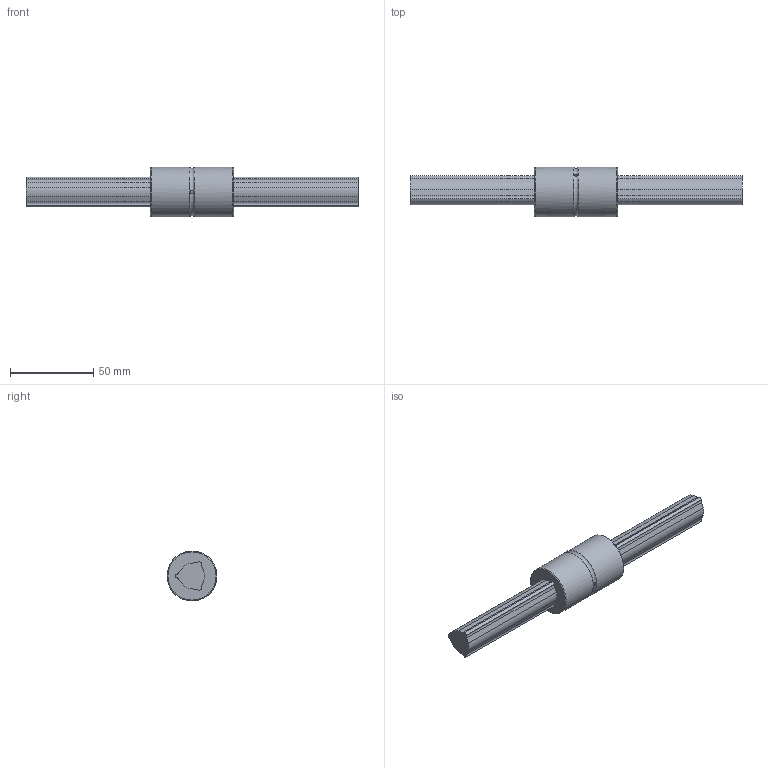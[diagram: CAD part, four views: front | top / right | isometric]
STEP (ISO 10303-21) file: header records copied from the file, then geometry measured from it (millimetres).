
FILE_DESCRIPTION(/* description */ ('STEP AP203'),/* implementation_level */ '2;1');
FILE_NAME(/* name */ 'LBS20+200L(50750)',/* time_stamp */ '2024-05-23T11:58:19+02:00',/* author */ ('License CC BY-ND 4.0'),/* organization */ ('CADENAS'),/* preprocessor_version */ 'ST-DEVELOPER v19.3',/* originating_system */ 'PARTsolutions',/* authorisation */ ' ');
FILE_SCHEMA (('CONFIG_CONTROL_DESIGN'));
Length unit declared in the file: millimetre
Products named in the file (3): LBS20+200L(50750); LBS20 Nut; LBS201200 Spline Shaft
Assembly tree (2 placements, depth 2):
  LBS20+200L(50750)
    LBS20 Nut
    LBS201200 Spline Shaft
Bounding box: 200 x 30 x 30 mm (x, y, z)
Volume: 66215.4 mm3; surface area: 20531.2 mm2
Topology: 3 solids, 3 shells, 57 faces, 148 edges, 99 vertices
Faces by surface type: cylinder 31, plane 22, torus 4
Full cylindrical faces by diameter (mm): 2 x3, 30 x2
Entity records: 1794 total; most frequent: CARTESIAN_POINT 339, DIRECTION 306, ORIENTED_EDGE 272, EDGE_CURVE 136, AXIS2_PLACEMENT_3D 118, VERTEX_POINT 94, LINE 70, VECTOR 70
